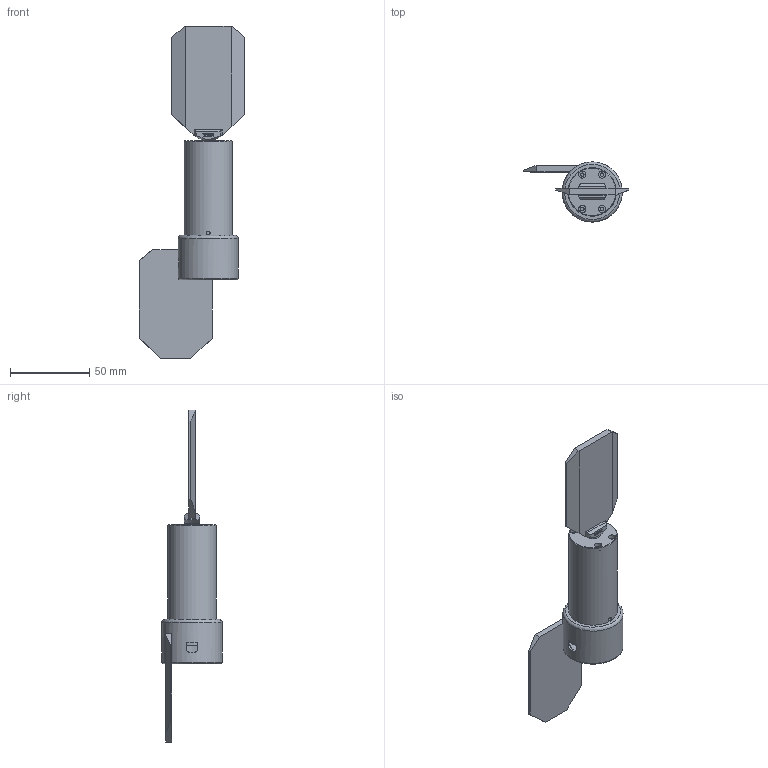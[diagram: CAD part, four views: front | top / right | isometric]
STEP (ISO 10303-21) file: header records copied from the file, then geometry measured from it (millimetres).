
FILE_DESCRIPTION( ( 'Unknown' ), '1' );
FILE_NAME( 'F:/方头/外形尺寸图/电机/3D/光栅电机/30mm光电光栅国产编码器带Y镜片.stp', 'Unknown', ( 'Unknown' ), ( 'Unknown' ), 'XStep 1.0', 'Unknown', ' ' );
FILE_SCHEMA( ( 'CONFIG_CONTROL_DESIGN' ) );
Length unit declared in the file: millimetre
Products named in the file (3): Assem1; 1; 2
Bounding box: 66.47 x 38 x 209.7 mm (x, y, z)
Volume: 113980 mm3; surface area: 60189.8 mm2
Topology: 4 solids, 26 shells, 752 faces, 1978 edges, 1318 vertices
Faces by surface type: plane 432, cylinder 164, cone 74, extrusion 36, sphere 24, torus 14, bspline 8
Full cylindrical faces by diameter (mm): 0.3 x2, 1.075 x4, 1.567 x18, 2 x6, 2.013 x2, 2.1 x6, 2.2 x8, 3 x2, 4.5 x8, 5 x4, 6.05 x2, 6.35 x4, 6.9 x2, 7.35 x2, 8.4 x8, 8.95 x2, 9 x2, 9.525 x4, 9.9 x4, 10 x4, 10.719 x2, 11.4 x2, 12 x2, 13.8 x2, 16 x2, 18 x2, 30.48 x2, 32.4 x2, 34 x2, 34.2 x2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
Entity records: 12056 total; most frequent: CARTESIAN_POINT 3726, DIRECTION 1630, ORIENTED_EDGE 1492, EDGE_CURVE 746, AXIS2_PLACEMENT_3D 601, EDGE_LOOP 587, VERTEX_POINT 559, FACE_OUTER_BOUND 444
